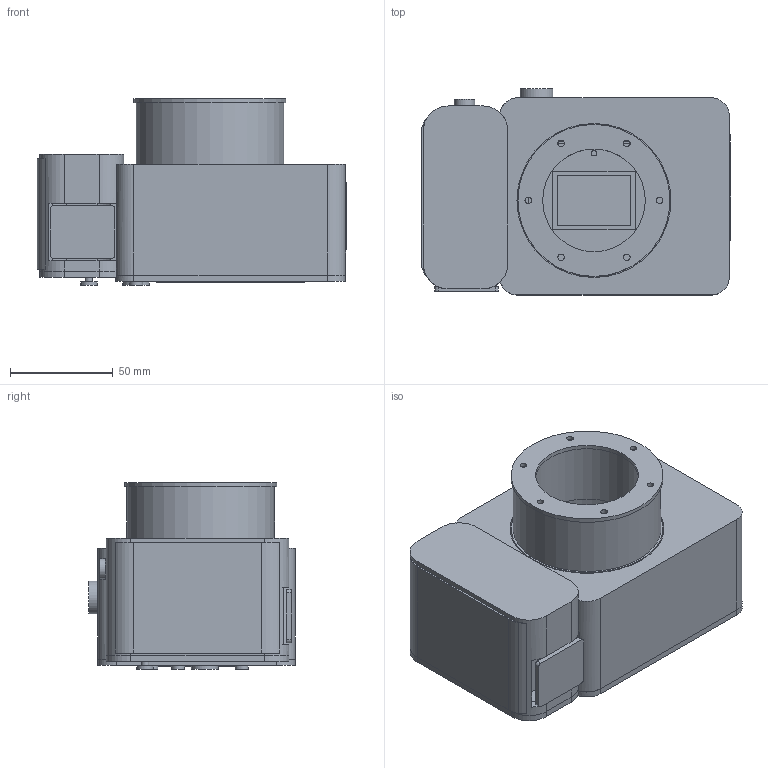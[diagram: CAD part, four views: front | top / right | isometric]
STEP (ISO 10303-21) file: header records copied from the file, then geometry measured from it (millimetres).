
FILE_DESCRIPTION(('Open CASCADE Model'),'2;1');
FILE_NAME('Open CASCADE Shape Model','2026-11-05T02:23:56',('Author'),( 'Open CASCADE'),'Open CASCADE STEP processor 7.8','Open CASCADE 7.8' ,'Unknown');
FILE_SCHEMA(('AUTOMOTIVE_DESIGN { 1 0 10303 214 1 1 1 1 }'));
Length unit declared in the file: millimetre
Products named in the file (31): HassleFree_FF1_EF_concept; 01_front_shell; 02_grip_wrap; 03_rear_shell; 04_load_bearing_chassis; 27_removable_sensor_bridge; 28_removable_control_mount_rails; 29_control_board_mount_spacers; 05_humi_common_interface; 08_ef_mount_cartridge_body; 09_ef_mount_reference_flange; 10_independent_sensor_carrier; 11_sensor_package_placeholder; 12_sensor_active_36x24; 13_three_point_sensor_spacers; 14_heat_spreader_placeholder; 32_thermal_adjustable_landing; 33_thermal_clamp_screw_reservation; 34_thermal_clamp_nut_reservation; 15_main_processing_board_envelope; 16_control_board_provisional_envelope; 26_control_board_component_envelopes; 17_replaceable_battery_envelope; 18_battery_service_door; 19_removable_storage_envelope; 20_storage_service_door; 21_display_module_envelope; 22_rear_buttons; 23_shutter_button; 24_top_control_dial; 25_sensor_datum_mark
Assembly tree (30 placements, depth 2):
  HassleFree_FF1_EF_concept
    01_front_shell
    02_grip_wrap
    03_rear_shell
    04_load_bearing_chassis
    27_removable_sensor_bridge
    28_removable_control_mount_rails
    29_control_board_mount_spacers
    05_humi_common_interface
    08_ef_mount_cartridge_body
    09_ef_mount_reference_flange
    10_independent_sensor_carrier
    11_sensor_package_placeholder
    12_sensor_active_36x24
    13_three_point_sensor_spacers
    14_heat_spreader_placeholder
    32_thermal_adjustable_landing
    33_thermal_clamp_screw_reservation
    34_thermal_clamp_nut_reservation
    15_main_processing_board_envelope
    16_control_board_provisional_envelope
    26_control_board_component_envelopes
    17_replaceable_battery_envelope
    18_battery_service_door
    19_removable_storage_envelope
    20_storage_service_door
    21_display_module_envelope
    22_rear_buttons
    23_shutter_button
    24_top_control_dial
    25_sensor_datum_mark
Bounding box: 150.7 x 100.4 x 91 mm (x, y, z)
Volume: 379971.3 mm3; surface area: 248693 mm2
Topology: 42 solids, 42 shells, 582 faces, 1442 edges, 960 vertices
Faces by surface type: plane 376, cylinder 206
Full cylindrical faces by diameter (mm): 1 x14, 2.5 x1, 2.6 x9, 2.7 x34, 3 x3, 3.2 x24, 3.4 x1, 3.6 x4, 4 x1, 4.2 x1, 5 x3, 5.4 x4, 5.6 x2, 6 x4, 6.4 x3, 8 x1, 10 x1, 13 x1, 16 x1, 50 x2, 57 x2, 72 x1, 74 x2, 75 x1
Entity records: 37860 total; most frequent: CARTESIAN_POINT 7039, DIRECTION 5804, LINE 3442, VECTOR 3442, ORIENTED_EDGE 2884, PCURVE 2884, DEFINITIONAL_REPRESENTATION 2884, EDGE_CURVE 1442
